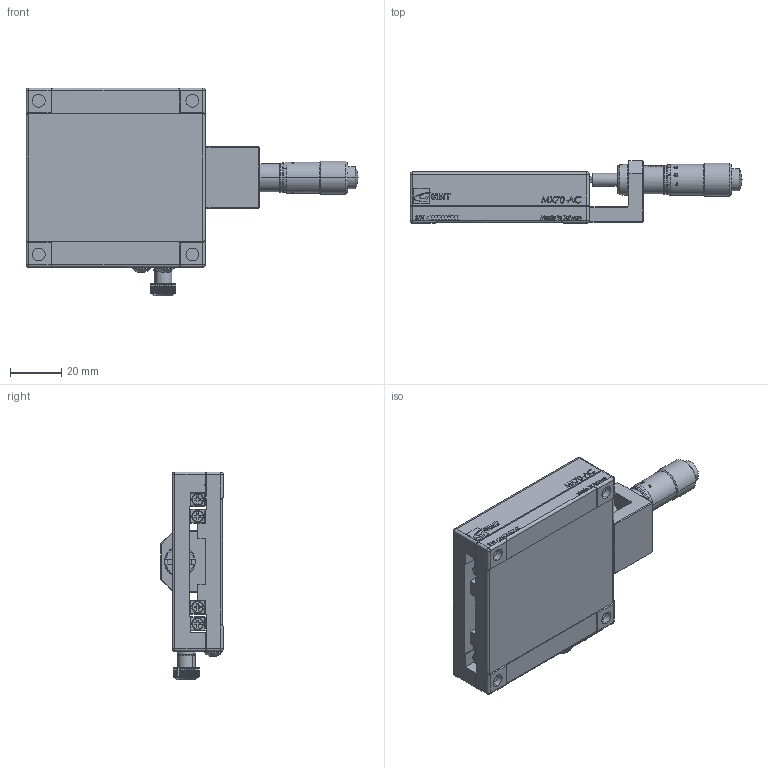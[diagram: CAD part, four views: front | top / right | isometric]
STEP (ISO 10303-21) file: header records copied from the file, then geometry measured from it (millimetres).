
FILE_DESCRIPTION (( 'STEP AP203' ), '1' );
FILE_NAME ('MX70-AC.STEP', '2011-09-06T07:53:21', ( 'user' ), ( '' ), 'SwSTEP 2.0', 'SolidWorks 2011', '' );
FILE_SCHEMA (( 'CONFIG_CONTROL_DESIGN' ));
Length unit declared in the file: millimetre
Products named in the file (3): MX70-AC; Group2^MX70-AC; Group1^MX70-AC
Assembly tree (2 placements, depth 2):
  MX70-AC
    Group2^MX70-AC
    Group1^MX70-AC
Bounding box: 129.7 x 24.5 x 81.2 mm (x, y, z)
Volume: 91295.5 mm3; surface area: 34251.1 mm2
Topology: 3 solids, 3 shells, 2741 faces, 7368 edges, 4814 vertices
Faces by surface type: plane 1772, cylinder 433, bspline 384, cone 102, torus 34, sphere 16
Entity records: 109877 total; most frequent: CARTESIAN_POINT 43514, ORIENTED_EDGE 14702, DIRECTION 12045, EDGE_CURVE 7351, VERTEX_POINT 4811, VECTOR 4795, LINE 4795, AXIS2_PLACEMENT_3D 3625
